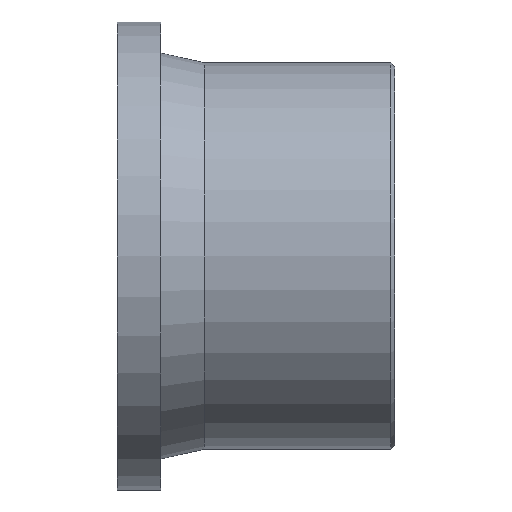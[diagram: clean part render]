
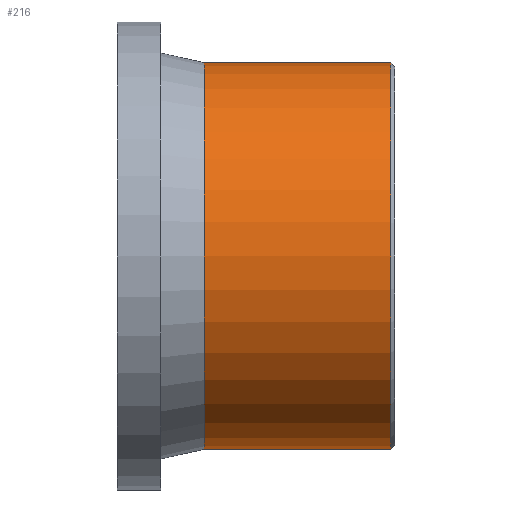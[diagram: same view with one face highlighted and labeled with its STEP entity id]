
A CAD part, front view. The second image highlights one B-rep face of the part: STEP entity #216.
In plain terms, the highlighted cylindrical face has radius 177.5 mm (diameter 355 mm), a full revolution.
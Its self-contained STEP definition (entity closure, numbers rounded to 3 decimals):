
#24=CYLINDRICAL_SURFACE('',#240,177.5);
#34=FACE_BOUND('',#76,.T.);
#54=FACE_OUTER_BOUND('',#75,.T.);
#75=EDGE_LOOP('',(#175));
#76=EDGE_LOOP('',(#176));
#113=CIRCLE('',#238,177.5);
#115=CIRCLE('',#241,177.5);
#133=VERTEX_POINT('',#361);
#135=VERTEX_POINT('',#366);
#153=EDGE_CURVE('',#133,#133,#113,.T.);
#155=EDGE_CURVE('',#135,#135,#115,.T.);
#175=ORIENTED_EDGE('',*,*,#155,.T.);
#176=ORIENTED_EDGE('',*,*,#153,.F.);
#216=ADVANCED_FACE('',(#54,#34),#24,.T.);
#238=AXIS2_PLACEMENT_3D('',#362,#281,#282);
#240=AXIS2_PLACEMENT_3D('',#365,#285,#286);
#241=AXIS2_PLACEMENT_3D('',#367,#287,#288);
#281=DIRECTION('center_axis',(1.,0.,0.));
#282=DIRECTION('ref_axis',(0.,-1.,0.));
#285=DIRECTION('center_axis',(1.,0.,0.));
#286=DIRECTION('ref_axis',(0.,1.,0.));
#287=DIRECTION('center_axis',(1.,0.,0.));
#288=DIRECTION('ref_axis',(0.,0.,-1.));
#361=CARTESIAN_POINT('',(-3.55,177.5,0.));
#362=CARTESIAN_POINT('Origin',(-3.55,0.,
0.));
#365=CARTESIAN_POINT('Origin',(-87.5,0.,0.));
#366=CARTESIAN_POINT('',(-175.,177.5,0.));
#367=CARTESIAN_POINT('Origin',(-175.,0.,0.));
